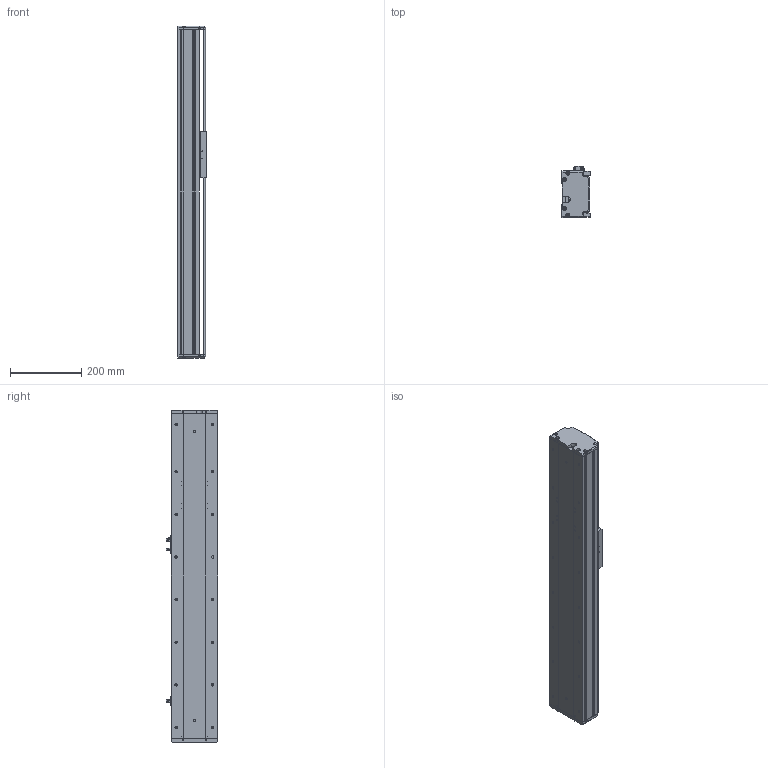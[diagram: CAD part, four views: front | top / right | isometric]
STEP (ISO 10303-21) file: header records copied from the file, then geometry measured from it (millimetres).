
FILE_DESCRIPTION (( 'STEP AP214' ), '1' );
FILE_NAME ('KSD130S-P2010-S450-M-CM.STEP', '2019-09-10T06:39:57', ( '微软用户' ), ( '微软中国' ), 'SwSTEP 2.0', 'SolidWorks 2014', '' );
FILE_SCHEMA (( 'AUTOMOTIVE_DESIGN' ));
Length unit declared in the file: millimetre
Products named in the file (8): 130宽马达安装板半封闭-内装; U倰嫖萇EEㄜSX672; 覜茼え100遵圉猾敕; 130宽盖板半封闭丝杠内装-450行程; 130宽滚珠丝杆安装板半封闭-内装-20丝杆; 130宽端盖半封闭-内装; 130宽底板半封闭丝杠内装-450行程; KSD130S-P2010-S450-M-CM
Assembly tree (9 placements, depth 2):
  KSD130S-P2010-S450-M-CM
    130宽底板半封闭丝杠内装-450行程
    130宽端盖半封闭-内装
    130宽滚珠丝杆安装板半封闭-内装-20丝杆
    130宽盖板半封闭丝杠内装-450行程
    覜茼え100遵圉猾敕
    U倰嫖萇EEㄜSX672  x3
    130宽马达安装板半封闭-内装
Bounding box: 80 x 143.71 x 935 mm (x, y, z)
Volume: 2908630.7 mm3; surface area: 885715.7 mm2
Topology: 9 solids, 9 shells, 1045 faces, 3024 edges, 1928 vertices
Faces by surface type: cylinder 464, plane 443, cone 138
Entity records: 33352 total; most frequent: CARTESIAN_POINT 6389, DIRECTION 4854, ORIENTED_EDGE 4768, EDGE_CURVE 2384, AXIS2_PLACEMENT_3D 1757, VERTEX_POINT 1552, LINE 1340, VECTOR 1340
